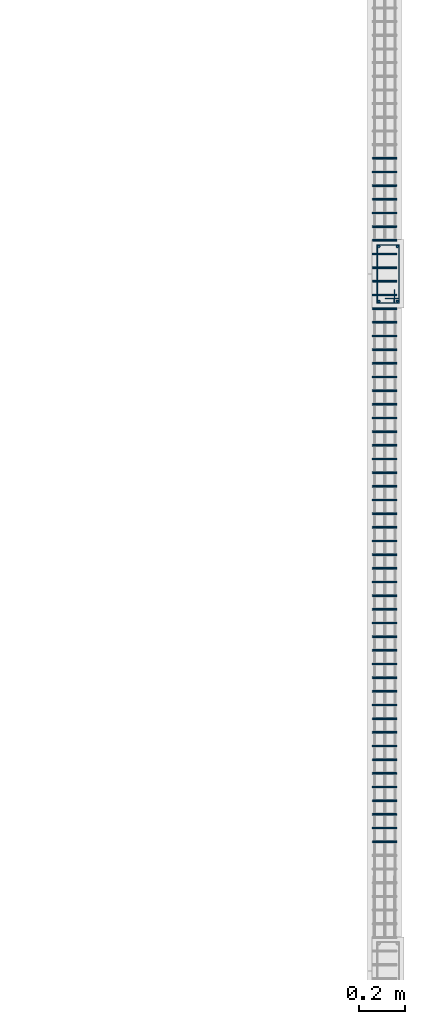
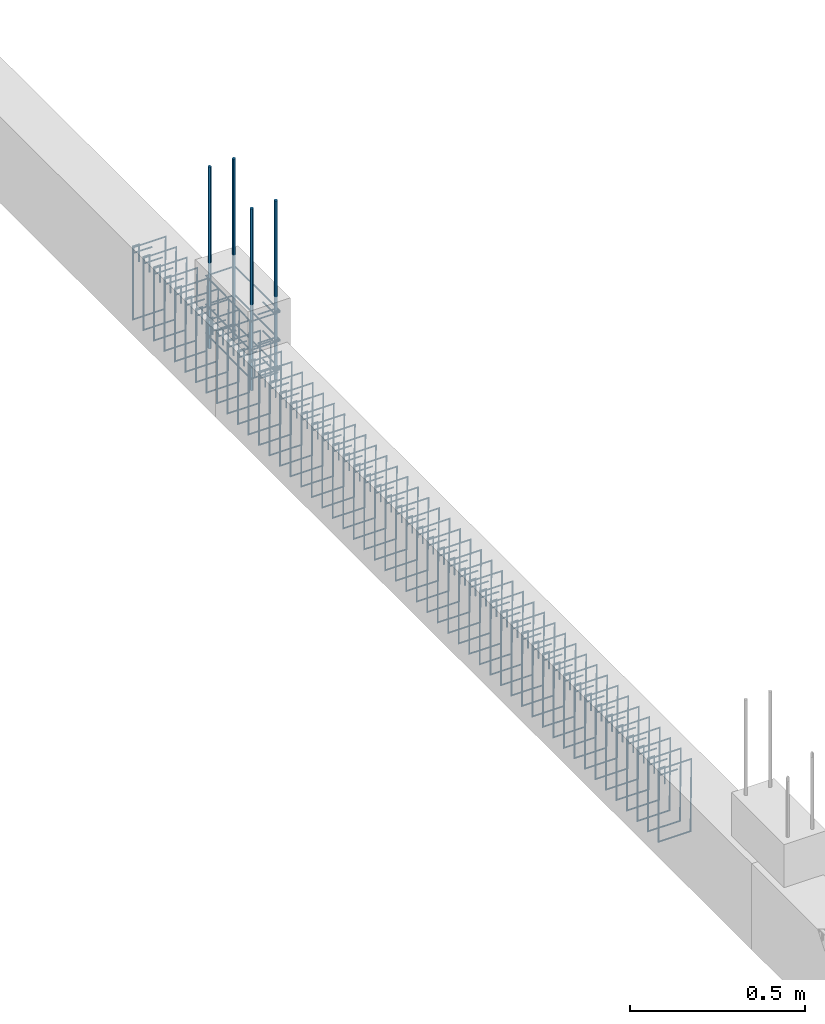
# One storey, part 100 of 150: 58 reinforcing bars.
"""IFC4 building model written with IfcOpenShell, lengths in centimetres."""

from ifc_helpers import new_model, entity, si_unit, derived_unit, frame, origin_with_axes, place, context, project, spatial, source, transform, mapped, element, save


model = new_model("IFC4")

# Units and contexts
model_context = context("Model", 3, precision=1e-05, world=origin_with_axes(), identifier="Body")
ifc_project = project(units=[si_unit("LENGTHUNIT", "METRE", prefix="CENTI"), si_unit("VOLUMEUNIT", "CUBIC_METRE"), si_unit("AREAUNIT", "SQUARE_METRE"), si_unit("POWERUNIT", "WATT"), si_unit("LUMINOUSFLUXUNIT", "LUMEN"), si_unit("ELECTRICCURRENTUNIT", "AMPERE"), si_unit("PRESSUREUNIT", "PASCAL", prefix="KILO"), si_unit("MASSUNIT", "GRAM", prefix="KILO"), si_unit("PLANEANGLEUNIT", "RADIAN"), derived_unit("VOLUMETRICFLOWRATEUNIT", [(si_unit("LENGTHUNIT", "METRE"), 3), (si_unit("TIMEUNIT", "SECOND"), -1)])], contexts=[model_context])

# Site, building, storey
site_placement = place(None, frame((-4000.0, 0.0, 0.0), z_axis=(0.0, 0.0, 1.0), x_axis=(1.0, 0.0, 0.0)))
site = spatial("IfcSite", under=ifc_project, at=site_placement, Name="PADRÃO")
building_placement = place(site_placement, frame((0.0, 0.0, -14.0)))
building = spatial("IfcBuilding", under=site, at=building_placement, Name="CRECHE PRÉ-ESCOLA TIPO 2")
placement = place(building_placement, origin_with_axes())
storey_placement = place(placement, frame((0.0, 0.0, 30.0), z_axis=(0.0, 0.0, 1.0), x_axis=(1.0, 0.0, 0.0)))
storey = spatial("IfcBuildingStorey", under=building, at=storey_placement, Name="VIGA BALDRAME", CompositionType="ELEMENT", Elevation=16.0)

# Reinforcing bars
shared_shape_1 = source(origin_with_axes(), model_context, "Body", "AdvancedSweptSolid", [
    entity("IfcSweptDiskSolid", entity("IfcCompositeCurve", [entity("IfcCompositeCurveSegment", "CONTINUOUS", True, entity("IfcPolyline", [entity("IfcCartesianPoint", [4.25, 21.75, 0.0]), entity("IfcCartesianPoint", [4.25, 27.75, 0.0])])), entity("IfcCompositeCurveSegment", "CONTINUOUS", True, entity("IfcPolyline", [entity("IfcCartesianPoint", [4.25, 27.75, 0.0]), entity("IfcCartesianPoint", [2.25, 27.75, 0.0])])), entity("IfcCompositeCurveSegment", "CONTINUOUS", True, entity("IfcPolyline", [entity("IfcCartesianPoint", [2.25, 27.75, 0.0]), entity("IfcCartesianPoint", [2.25, 2.25, 0.0])])), entity("IfcCompositeCurveSegment", "CONTINUOUS", True, entity("IfcPolyline", [entity("IfcCartesianPoint", [2.25, 2.25, 0.0]), entity("IfcCartesianPoint", [11.75, 2.25, 0.0])])), entity("IfcCompositeCurveSegment", "CONTINUOUS", True, entity("IfcPolyline", [entity("IfcCartesianPoint", [11.75, 2.25, 0.0]), entity("IfcCartesianPoint", [11.75, 27.75, -0.5])])), entity("IfcCompositeCurveSegment", "CONTINUOUS", True, entity("IfcPolyline", [entity("IfcCartesianPoint", [11.75, 27.75, -0.5]), entity("IfcCartesianPoint", [2.25, 27.75, -0.5])])), entity("IfcCompositeCurveSegment", "CONTINUOUS", True, entity("IfcPolyline", [entity("IfcCartesianPoint", [2.25, 27.75, -0.5]), entity("IfcCartesianPoint", [2.25, 25.75, -0.5])])), entity("IfcCompositeCurveSegment", "CONTINUOUS", True, entity("IfcPolyline", [entity("IfcCartesianPoint", [2.25, 25.75, -0.5]), entity("IfcCartesianPoint", [8.25, 25.75, -0.5])]))], False), 0.25),
])
for number, where, z_axis, x_axis, name in (
    (1, (4000.0, 1473.11, -15.0), (0.0, 0.0, 1.0), (-1.0, 0.0, 0.0), "P103 - Estribo"),
    (2, (4000.0, 1473.11, -25.0), (0.0, 0.0, 1.0), (-1.0, 0.0, 0.0), "P103 - Estribo"),
    (3, (4000.0, 1473.11, -5.0), (0.0, 0.0, 1.0), (-1.0, 0.0, 0.0), "P103 - Estribo"),
):
    element("IfcReinforcingBar", number, at=place(storey_placement, frame(where, z_axis=z_axis, x_axis=x_axis)), inside=storey, Name=name, BarLength=0.0, CrossSectionArea=1.9634954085e-05, NominalDiameter=0.5, PredefinedType="MAIN", context=model_context, shape_type="MappedRepresentation", body=[
        mapped(shared_shape_1, transform((0.0, 0.0, 0.0), scale=1.0)),
    ])
shared_shape_2 = source(origin_with_axes(), model_context, "Body", "AdvancedSweptSolid", [
    entity("IfcSweptDiskSolid", entity("IfcCompositeCurve", [entity("IfcCompositeCurveSegment", "CONTINUOUS", True, entity("IfcPolyline", [entity("IfcCartesianPoint", [2.0, -6.0, 0.0]), entity("IfcCartesianPoint", [2.0, 0.0, 0.0])])), entity("IfcCompositeCurveSegment", "CONTINUOUS", True, entity("IfcPolyline", [entity("IfcCartesianPoint", [2.0, 0.0, 0.0]), entity("IfcCartesianPoint", [0.0, 0.0, 0.0])])), entity("IfcCompositeCurveSegment", "CONTINUOUS", True, entity("IfcPolyline", [entity("IfcCartesianPoint", [0.0, 0.0, 0.0]), entity("IfcCartesianPoint", [0.0, -25.5, 0.0])])), entity("IfcCompositeCurveSegment", "CONTINUOUS", True, entity("IfcPolyline", [entity("IfcCartesianPoint", [0.0, -25.5, 0.0]), entity("IfcCartesianPoint", [10.5, -25.5, 0.0])])), entity("IfcCompositeCurveSegment", "CONTINUOUS", True, entity("IfcPolyline", [entity("IfcCartesianPoint", [10.5, -25.5, 0.0]), entity("IfcCartesianPoint", [10.5, 0.0, 0.5])])), entity("IfcCompositeCurveSegment", "CONTINUOUS", True, entity("IfcPolyline", [entity("IfcCartesianPoint", [10.5, 0.0, 0.5]), entity("IfcCartesianPoint", [0.0, 0.0, 0.5])])), entity("IfcCompositeCurveSegment", "CONTINUOUS", True, entity("IfcPolyline", [entity("IfcCartesianPoint", [0.0, 0.0, 0.5]), entity("IfcCartesianPoint", [0.0, -2.0, 0.5])])), entity("IfcCompositeCurveSegment", "CONTINUOUS", True, entity("IfcPolyline", [entity("IfcCartesianPoint", [0.0, -2.0, 0.5]), entity("IfcCartesianPoint", [6.0, -2.0, 0.5])]))], False), 0.25),
])
for number, where, z_axis, x_axis, name in (
    (4, (3986.25, 1209.11, -17.25), (0.0, -1.0, 0.0), (1.0, 0.0, 0.0), "V230 - Estribo"),
    (5, (3986.25, 1215.11, -17.25), (0.0, -1.0, 0.0), (1.0, 0.0, 0.0), "V230 - Estribo"),
    (6, (3986.25, 1221.11, -17.25), (0.0, -1.0, 0.0), (1.0, 0.0, 0.0), "V230 - Estribo"),
    (7, (3986.25, 1227.11, -17.25), (0.0, -1.0, 0.0), (1.0, 0.0, 0.0), "V230 - Estribo"),
    (8, (3986.25, 1233.11, -17.25), (0.0, -1.0, 0.0), (1.0, 0.0, 0.0), "V230 - Estribo"),
    (9, (3986.25, 1239.11, -17.25), (0.0, -1.0, 0.0), (1.0, 0.0, 0.0), "V230 - Estribo"),
    (10, (3986.25, 1245.11, -17.25), (0.0, -1.0, 0.0), (1.0, 0.0, 0.0), "V230 - Estribo"),
    (11, (3986.25, 1251.11, -17.25), (0.0, -1.0, 0.0), (1.0, 0.0, 0.0), "V230 - Estribo"),
    (12, (3986.25, 1257.11, -17.25), (0.0, -1.0, 0.0), (1.0, 0.0, 0.0), "V230 - Estribo"),
    (13, (3986.25, 1263.11, -17.25), (0.0, -1.0, 0.0), (1.0, 0.0, 0.0), "V230 - Estribo"),
    (14, (3986.25, 1269.11, -17.25), (0.0, -1.0, 0.0), (1.0, 0.0, 0.0), "V230 - Estribo"),
    (15, (3986.25, 1275.11, -17.25), (0.0, -1.0, 0.0), (1.0, 0.0, 0.0), "V230 - Estribo"),
    (16, (3986.25, 1281.11, -17.25), (0.0, -1.0, 0.0), (1.0, 0.0, 0.0), "V230 - Estribo"),
    (17, (3986.25, 1287.11, -17.25), (0.0, -1.0, 0.0), (1.0, 0.0, 0.0), "V230 - Estribo"),
    (18, (3986.25, 1293.11, -17.25), (0.0, -1.0, 0.0), (1.0, 0.0, 0.0), "V230 - Estribo"),
    (19, (3986.25, 1299.11, -17.25), (0.0, -1.0, 0.0), (1.0, 0.0, 0.0), "V230 - Estribo"),
    (20, (3986.25, 1305.11, -17.25), (0.0, -1.0, 0.0), (1.0, 0.0, 0.0), "V230 - Estribo"),
    (21, (3986.25, 1311.11, -17.25), (0.0, -1.0, 0.0), (1.0, 0.0, 0.0), "V230 - Estribo"),
    (22, (3986.25, 1317.11, -17.25), (0.0, -1.0, 0.0), (1.0, 0.0, 0.0), "V230 - Estribo"),
    (23, (3986.25, 1323.11, -17.25), (0.0, -1.0, 0.0), (1.0, 0.0, 0.0), "V230 - Estribo"),
    (24, (3986.25, 1329.11, -17.25), (0.0, -1.0, 0.0), (1.0, 0.0, 0.0), "V230 - Estribo"),
    (25, (3986.25, 1335.11, -17.25), (0.0, -1.0, 0.0), (1.0, 0.0, 0.0), "V230 - Estribo"),
    (26, (3986.25, 1341.11, -17.25), (0.0, -1.0, 0.0), (1.0, 0.0, 0.0), "V230 - Estribo"),
    (27, (3986.25, 1347.11, -17.25), (0.0, -1.0, 0.0), (1.0, 0.0, 0.0), "V230 - Estribo"),
    (28, (3986.25, 1353.11, -17.25), (0.0, -1.0, 0.0), (1.0, 0.0, 0.0), "V230 - Estribo"),
    (29, (3986.25, 1359.11, -17.25), (0.0, -1.0, 0.0), (1.0, 0.0, 0.0), "V230 - Estribo"),
    (30, (3986.25, 1365.11, -17.25), (0.0, -1.0, 0.0), (1.0, 0.0, 0.0), "V230 - Estribo"),
    (31, (3986.25, 1371.11, -17.25), (0.0, -1.0, 0.0), (1.0, 0.0, 0.0), "V230 - Estribo"),
    (32, (3986.25, 1377.11, -17.25), (0.0, -1.0, 0.0), (1.0, 0.0, 0.0), "V230 - Estribo"),
    (33, (3986.25, 1383.11, -17.25), (0.0, -1.0, 0.0), (1.0, 0.0, 0.0), "V230 - Estribo"),
    (34, (3986.25, 1389.11, -17.25), (0.0, -1.0, 0.0), (1.0, 0.0, 0.0), "V230 - Estribo"),
    (35, (3986.25, 1395.11, -17.25), (0.0, -1.0, 0.0), (1.0, 0.0, 0.0), "V230 - Estribo"),
    (36, (3986.25, 1401.11, -17.25), (0.0, -1.0, 0.0), (1.0, 0.0, 0.0), "V230 - Estribo"),
    (37, (3986.25, 1407.11, -17.25), (0.0, -1.0, 0.0), (1.0, 0.0, 0.0), "V230 - Estribo"),
    (38, (3986.25, 1413.11, -17.25), (0.0, -1.0, 0.0), (1.0, 0.0, 0.0), "V230 - Estribo"),
    (39, (3986.25, 1419.11, -17.25), (0.0, -1.0, 0.0), (1.0, 0.0, 0.0), "V230 - Estribo"),
    (40, (3986.25, 1425.11, -17.25), (0.0, -1.0, 0.0), (1.0, 0.0, 0.0), "V230 - Estribo"),
    (41, (3986.25, 1431.11, -17.25), (0.0, -1.0, 0.0), (1.0, 0.0, 0.0), "V230 - Estribo"),
    (42, (3986.25, 1437.11, -17.25), (0.0, -1.0, 0.0), (1.0, 0.0, 0.0), "V230 - Estribo"),
    (43, (3986.25, 1443.11, -17.25), (0.0, -1.0, 0.0), (1.0, 0.0, 0.0), "V230 - Estribo"),
    (44, (3986.25, 1449.11, -17.25), (0.0, -1.0, 0.0), (1.0, 0.0, 0.0), "V230 - Estribo"),
    (45, (3986.25, 1455.11, -17.25), (0.0, -1.0, 0.0), (1.0, 0.0, 0.0), "V230 - Estribo"),
):
    element("IfcReinforcingBar", number, at=place(storey_placement, frame(where, z_axis=z_axis, x_axis=x_axis)), inside=storey, Name=name, BarLength=0.0, CrossSectionArea=1.9634954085e-05, NominalDiameter=0.5, PredefinedType="MAIN", context=model_context, shape_type="MappedRepresentation", body=[
        mapped(shared_shape_2, transform((0.0, 0.0, 0.0), scale=1.0)),
    ])
shared_shape_3 = source(origin_with_axes(), model_context, "Body", "AdvancedSweptSolid", [
    entity("IfcSweptDiskSolid", entity("IfcCompositeCurve", [entity("IfcCompositeCurveSegment", "CONTINUOUS", True, entity("IfcPolyline", [entity("IfcCartesianPoint", [2.0, -6.0, 0.0]), entity("IfcCartesianPoint", [2.0, 0.0, 0.0])])), entity("IfcCompositeCurveSegment", "CONTINUOUS", True, entity("IfcPolyline", [entity("IfcCartesianPoint", [2.0, 0.0, 0.0]), entity("IfcCartesianPoint", [0.0, 0.0, 0.0])])), entity("IfcCompositeCurveSegment", "CONTINUOUS", True, entity("IfcPolyline", [entity("IfcCartesianPoint", [0.0, 0.0, 0.0]), entity("IfcCartesianPoint", [0.0, -25.5, 0.0])])), entity("IfcCompositeCurveSegment", "CONTINUOUS", True, entity("IfcPolyline", [entity("IfcCartesianPoint", [0.0, -25.5, 0.0]), entity("IfcCartesianPoint", [10.5, -25.5, 0.0])])), entity("IfcCompositeCurveSegment", "CONTINUOUS", True, entity("IfcPolyline", [entity("IfcCartesianPoint", [10.5, -25.5, 0.0]), entity("IfcCartesianPoint", [10.5, 0.0, 0.5])])), entity("IfcCompositeCurveSegment", "CONTINUOUS", True, entity("IfcPolyline", [entity("IfcCartesianPoint", [10.5, 0.0, 0.5]), entity("IfcCartesianPoint", [0.0, 0.0, 0.5])])), entity("IfcCompositeCurveSegment", "CONTINUOUS", True, entity("IfcPolyline", [entity("IfcCartesianPoint", [0.0, 0.0, 0.5]), entity("IfcCartesianPoint", [0.0, -2.0, 0.5])])), entity("IfcCompositeCurveSegment", "CONTINUOUS", True, entity("IfcPolyline", [entity("IfcCartesianPoint", [0.0, -2.0, 0.5]), entity("IfcCartesianPoint", [6.0, -2.0, 0.5])]))], False), 0.25),
])
for number, where, z_axis, x_axis, name in (
    (46, (3986.25, 1461.11, -17.25), (0.0, -1.0, 0.0), (1.0, 0.0, 0.0), "V230 - Estribo"),
    (47, (3986.25, 1467.11, -17.25), (0.0, -1.0, 0.0), (1.0, 0.0, 0.0), "V230 - Estribo"),
    (48, (3986.25, 1473.11, -17.25), (0.0, -1.0, 0.0), (1.0, 0.0, 0.0), "V230 - Estribo"),
    (49, (3986.25, 1479.11, -17.25), (0.0, -1.0, 0.0), (1.0, 0.0, 0.0), "V230 - Estribo"),
    (50, (3986.25, 1485.11, -17.25), (0.0, -1.0, 0.0), (1.0, 0.0, 0.0), "V230 - Estribo"),
    (51, (3986.25, 1491.11, -17.25), (0.0, -1.0, 0.0), (1.0, 0.0, 0.0), "V230 - Estribo"),
    (52, (3986.25, 1497.11, -17.25), (0.0, -1.0, 0.0), (1.0, 0.0, 0.0), "V230 - Estribo"),
    (53, (3986.25, 1503.11, -17.25), (0.0, -1.0, 0.0), (1.0, 0.0, 0.0), "V230 - Estribo"),
    (54, (3986.25, 1509.11, -17.25), (0.0, -1.0, 0.0), (1.0, 0.0, 0.0), "V230 - Estribo"),
):
    element("IfcReinforcingBar", number, at=place(storey_placement, frame(where, z_axis=z_axis, x_axis=x_axis)), inside=storey, Name=name, BarLength=0.0, CrossSectionArea=1.9634954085e-05, NominalDiameter=0.5, PredefinedType="MAIN", context=model_context, shape_type="MappedRepresentation", body=[
        mapped(shared_shape_3, transform((0.0, 0.0, 0.0), scale=1.0)),
    ])
for number, where, z_axis, x_axis, name in (
    (55, (3989.0, 1470.11, 33.3573001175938), (0.0, 0.0, 1.0), (1.0, 0.0, 0.0), "P103 - Longitudinal"),
    (56, (3989.0, 1446.11, 33.3573001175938), (0.0, 0.0, 1.0), (1.0, 0.0, 0.0), "P103 - Longitudinal"),
    (57, (3997.0, 1446.11, 33.3573001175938), (0.0, 0.0, 1.0), (1.0, 0.0, 0.0), "P103 - Longitudinal"),
    (58, (3997.0, 1470.11, 33.3573001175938), (0.0, 0.0, 1.0), (1.0, 0.0, 0.0), "P103 - Longitudinal"),
):
    element("IfcReinforcingBar", number, at=place(storey_placement, frame(where, z_axis=z_axis, x_axis=x_axis)), inside=storey, Name=name, BarLength=0.0, CrossSectionArea=7.853981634e-05, NominalDiameter=1.0, PredefinedType="MAIN", context=model_context, shape_type="AdvancedSweptSolid", body=[
        entity("IfcSweptDiskSolid", entity("IfcCompositeCurve", [entity("IfcCompositeCurveSegment", "CONTINUOUS", True, entity("IfcPolyline", [entity("IfcCartesianPoint", [0.0, 0.0, -63.3573001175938]), entity("IfcCartesianPoint", [0.0, 0.0, 0.0])]))], False), 0.5),
    ])

save(model, "model.ifc")
